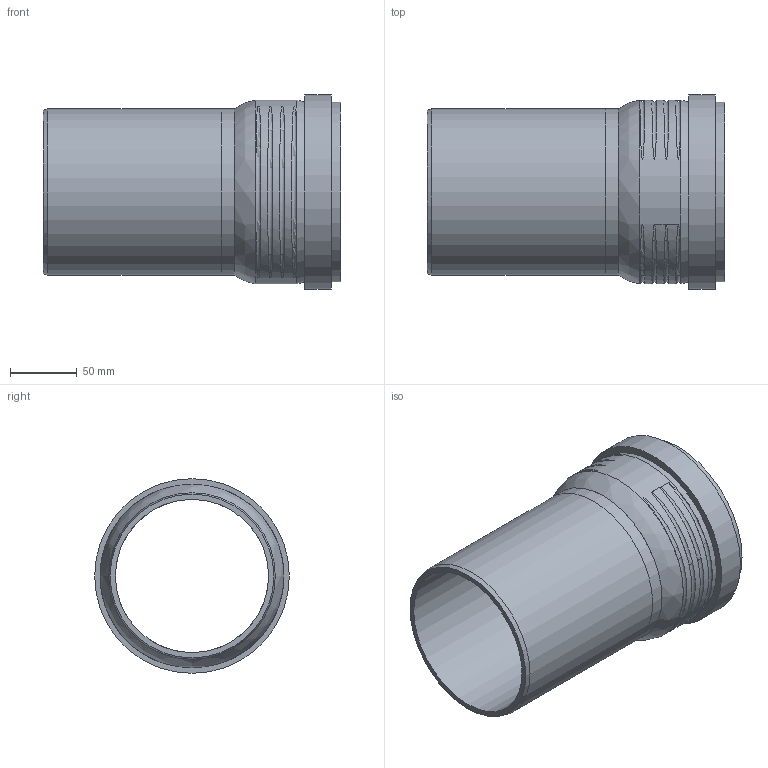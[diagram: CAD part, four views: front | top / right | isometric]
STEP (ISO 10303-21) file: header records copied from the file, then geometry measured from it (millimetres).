
FILE_DESCRIPTION(/* description */ (''),/* implementation_level */ '2;1');
FILE_NAME(/* name */ 'H:\Geberit-Teile\Export\PP_Rohr\stp\393600.stp',/* time_stamp */ '2017-02-13T16:09:06+01:00',/* author */ ('seihe2'),/* organization */ (''),/* preprocessor_version */ 'ST-DEVELOPER v15.2',/* originating_system */ 'Autodesk Inventor 2014',/* authorisation */ '');
FILE_SCHEMA (('AUTOMOTIVE_DESIGN { 1 0 10303 214 3 1 1 }'));
Length unit declared in the file: millimetre
Products named in the file (1): 393600
Bounding box: 223.9 x 146.35 x 146.35 mm (x, y, z)
Volume: 452553.5 mm3; surface area: 202471.9 mm2
Topology: 2 solids, 2 shells, 38 faces, 81 edges, 56 vertices
Faces by surface type: torus 17, cylinder 10, plane 8, cone 2, bspline 1
Full cylindrical faces by diameter (mm): 115.2 x2, 125.2 x2, 126.2 x1, 129.2 x1, 135.2 x1, 137.75 x1, 138.2 x1, 146.35 x1
Entity records: 2345 total; most frequent: CARTESIAN_POINT 1566, DIRECTION 130, ORIENTED_EDGE 124, EDGE_LOOP 69, AXIS2_PLACEMENT_3D 65, EDGE_CURVE 62, VERTEX_POINT 55, STYLED_ITEM 40
